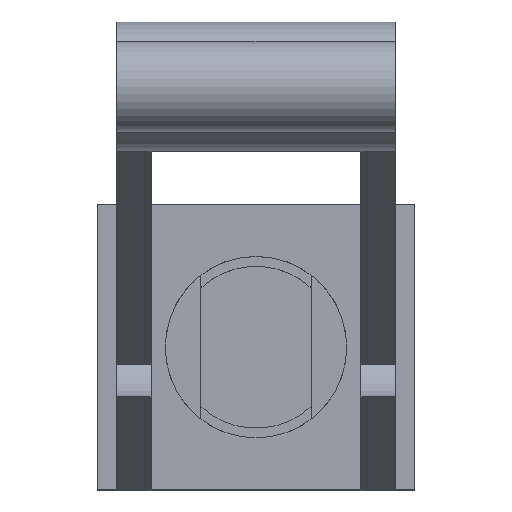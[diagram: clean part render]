
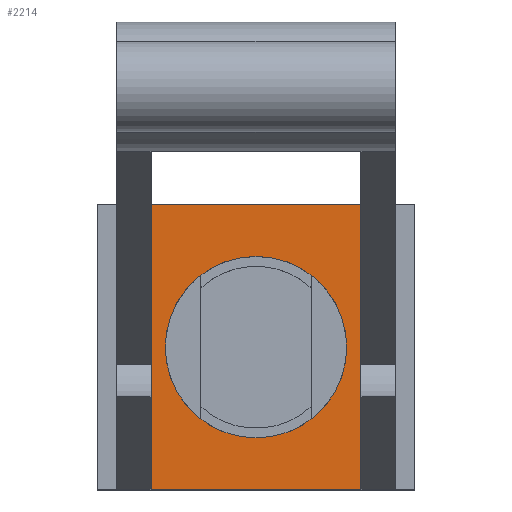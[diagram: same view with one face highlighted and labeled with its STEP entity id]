
A CAD part, top view. The second image highlights one B-rep face of the part: STEP entity #2214.
In plain terms, the highlighted planar face has unit normal (0, 0, 1).
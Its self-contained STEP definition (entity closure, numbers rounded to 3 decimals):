
#44 = PLANE('',#45);
#45 = AXIS2_PLACEMENT_3D('',#46,#47,#48);
#46 = CARTESIAN_POINT('',(-24.5,-62.,-119.04));
#47 = DIRECTION('',(0.,1.,0.));
#48 = DIRECTION('',(0.,0.,1.));
#100 = PLANE('',#101);
#101 = AXIS2_PLACEMENT_3D('',#102,#103,#104);
#102 = CARTESIAN_POINT('',(-24.5,-18.,-119.04));
#103 = DIRECTION('',(0.,1.,0.));
#104 = DIRECTION('',(0.,0.,1.));
#332 = VERTEX_POINT('',#333);
#333 = CARTESIAN_POINT('',(-16.2,-62.,-98.04));
#347 = PLANE('',#348);
#348 = AXIS2_PLACEMENT_3D('',#349,#350,#351);
#349 = CARTESIAN_POINT('',(-16.2,-23.337,-54.723));
#350 = DIRECTION('',(1.,0.,0.));
#351 = DIRECTION('',(-0.,0.,1.));
#359 = EDGE_CURVE('',#332,#360,#362,.T.);
#360 = VERTEX_POINT('',#361);
#361 = CARTESIAN_POINT('',(16.2,-62.,-98.04));
#362 = SURFACE_CURVE('',#363,(#367,#374),.PCURVE_S1.);
#363 = LINE('',#364,#365);
#364 = CARTESIAN_POINT('',(-24.5,-62.,-98.04));
#365 = VECTOR('',#366,1.);
#366 = DIRECTION('',(1.,0.,0.));
#367 = PCURVE('',#44,#368);
#368 = DEFINITIONAL_REPRESENTATION('',(#369),#373);
#369 = LINE('',#370,#371);
#370 = CARTESIAN_POINT('',(21.,0.));
#371 = VECTOR('',#372,1.);
#372 = DIRECTION('',(0.,1.));
#373 = ( GEOMETRIC_REPRESENTATION_CONTEXT(2) 
PARAMETRIC_REPRESENTATION_CONTEXT() REPRESENTATION_CONTEXT('2D SPACE',''
  ) );
#374 = PCURVE('',#375,#380);
#375 = PLANE('',#376);
#376 = AXIS2_PLACEMENT_3D('',#377,#378,#379);
#377 = CARTESIAN_POINT('',(-24.5,-62.,-98.04));
#378 = DIRECTION('',(0.,0.,1.));
#379 = DIRECTION('',(1.,0.,0.));
#380 = DEFINITIONAL_REPRESENTATION('',(#381),#385);
#381 = LINE('',#382,#383);
#382 = CARTESIAN_POINT('',(0.,0.));
#383 = VECTOR('',#384,1.);
#384 = DIRECTION('',(1.,0.));
#385 = ( GEOMETRIC_REPRESENTATION_CONTEXT(2) 
PARAMETRIC_REPRESENTATION_CONTEXT() REPRESENTATION_CONTEXT('2D SPACE',''
  ) );
#403 = PLANE('',#404);
#404 = AXIS2_PLACEMENT_3D('',#405,#406,#407);
#405 = CARTESIAN_POINT('',(16.2,-23.337,-54.723));
#406 = DIRECTION('',(1.,0.,0.));
#407 = DIRECTION('',(-0.,0.,1.));
#899 = VERTEX_POINT('',#900);
#900 = CARTESIAN_POINT('',(-16.2,-18.,-98.04));
#921 = EDGE_CURVE('',#899,#922,#924,.T.);
#922 = VERTEX_POINT('',#923);
#923 = CARTESIAN_POINT('',(16.2,-18.,-98.04));
#924 = SURFACE_CURVE('',#925,(#929,#936),.PCURVE_S1.);
#925 = LINE('',#926,#927);
#926 = CARTESIAN_POINT('',(-24.5,-18.,-98.04));
#927 = VECTOR('',#928,1.);
#928 = DIRECTION('',(1.,0.,0.));
#929 = PCURVE('',#100,#930);
#930 = DEFINITIONAL_REPRESENTATION('',(#931),#935);
#931 = LINE('',#932,#933);
#932 = CARTESIAN_POINT('',(21.,0.));
#933 = VECTOR('',#934,1.);
#934 = DIRECTION('',(0.,1.));
#935 = ( GEOMETRIC_REPRESENTATION_CONTEXT(2) 
PARAMETRIC_REPRESENTATION_CONTEXT() REPRESENTATION_CONTEXT('2D SPACE',''
  ) );
#936 = PCURVE('',#375,#937);
#937 = DEFINITIONAL_REPRESENTATION('',(#938),#942);
#938 = LINE('',#939,#940);
#939 = CARTESIAN_POINT('',(0.,44.));
#940 = VECTOR('',#941,1.);
#941 = DIRECTION('',(1.,0.));
#942 = ( GEOMETRIC_REPRESENTATION_CONTEXT(2) 
PARAMETRIC_REPRESENTATION_CONTEXT() REPRESENTATION_CONTEXT('2D SPACE',''
  ) );
#1919 = EDGE_CURVE('',#332,#899,#1920,.T.);
#1920 = SURFACE_CURVE('',#1921,(#1925,#1932),.PCURVE_S1.);
#1921 = LINE('',#1922,#1923);
#1922 = CARTESIAN_POINT('',(-16.2,-42.669,-98.04));
#1923 = VECTOR('',#1924,1.);
#1924 = DIRECTION('',(0.,1.,0.));
#1925 = PCURVE('',#347,#1926);
#1926 = DEFINITIONAL_REPRESENTATION('',(#1927),#1931);
#1927 = LINE('',#1928,#1929);
#1928 = CARTESIAN_POINT('',(-43.317,19.331));
#1929 = VECTOR('',#1930,1.);
#1930 = DIRECTION('',(0.,-1.));
#1931 = ( GEOMETRIC_REPRESENTATION_CONTEXT(2) 
PARAMETRIC_REPRESENTATION_CONTEXT() REPRESENTATION_CONTEXT('2D SPACE',''
  ) );
#1932 = PCURVE('',#375,#1933);
#1933 = DEFINITIONAL_REPRESENTATION('',(#1934),#1938);
#1934 = LINE('',#1935,#1936);
#1935 = CARTESIAN_POINT('',(8.3,19.331));
#1936 = VECTOR('',#1937,1.);
#1937 = DIRECTION('',(0.,1.));
#1938 = ( GEOMETRIC_REPRESENTATION_CONTEXT(2) 
PARAMETRIC_REPRESENTATION_CONTEXT() REPRESENTATION_CONTEXT('2D SPACE',''
  ) );
#2214 = ADVANCED_FACE('',(#2215,#2241),#375,.T.);
#2215 = FACE_BOUND('',#2216,.T.);
#2216 = EDGE_LOOP('',(#2217,#2218,#2219,#2220));
#2217 = ORIENTED_EDGE('',*,*,#921,.F.);
#2218 = ORIENTED_EDGE('',*,*,#1919,.F.);
#2219 = ORIENTED_EDGE('',*,*,#359,.T.);
#2220 = ORIENTED_EDGE('',*,*,#2221,.T.);
#2221 = EDGE_CURVE('',#360,#922,#2222,.T.);
#2222 = SURFACE_CURVE('',#2223,(#2227,#2234),.PCURVE_S1.);
#2223 = LINE('',#2224,#2225);
#2224 = CARTESIAN_POINT('',(16.2,-42.669,-98.04));
#2225 = VECTOR('',#2226,1.);
#2226 = DIRECTION('',(0.,1.,0.));
#2227 = PCURVE('',#375,#2228);
#2228 = DEFINITIONAL_REPRESENTATION('',(#2229),#2233);
#2229 = LINE('',#2230,#2231);
#2230 = CARTESIAN_POINT('',(40.7,19.331));
#2231 = VECTOR('',#2232,1.);
#2232 = DIRECTION('',(0.,1.));
#2233 = ( GEOMETRIC_REPRESENTATION_CONTEXT(2) 
PARAMETRIC_REPRESENTATION_CONTEXT() REPRESENTATION_CONTEXT('2D SPACE',''
  ) );
#2234 = PCURVE('',#403,#2235);
#2235 = DEFINITIONAL_REPRESENTATION('',(#2236),#2240);
#2236 = LINE('',#2237,#2238);
#2237 = CARTESIAN_POINT('',(-43.317,19.331));
#2238 = VECTOR('',#2239,1.);
#2239 = DIRECTION('',(0.,-1.));
#2240 = ( GEOMETRIC_REPRESENTATION_CONTEXT(2) 
PARAMETRIC_REPRESENTATION_CONTEXT() REPRESENTATION_CONTEXT('2D SPACE',''
  ) );
#2241 = FACE_BOUND('',#2242,.T.);
#2242 = EDGE_LOOP('',(#2243));
#2243 = ORIENTED_EDGE('',*,*,#2244,.T.);
#2244 = EDGE_CURVE('',#2245,#2245,#2247,.T.);
#2245 = VERTEX_POINT('',#2246);
#2246 = CARTESIAN_POINT('',(0.,-26.,-98.04));
#2247 = SURFACE_CURVE('',#2248,(#2253,#2264),.PCURVE_S1.);
#2248 = CIRCLE('',#2249,14.);
#2249 = AXIS2_PLACEMENT_3D('',#2250,#2251,#2252);
#2250 = CARTESIAN_POINT('',(0.,-40.,-98.04));
#2251 = DIRECTION('',(-0.,0.,-1.));
#2252 = DIRECTION('',(0.,1.,0.));
#2253 = PCURVE('',#375,#2254);
#2254 = DEFINITIONAL_REPRESENTATION('',(#2255),#2263);
#2255 = ( BOUNDED_CURVE() B_SPLINE_CURVE(2,(#2256,#2257,#2258,#2259,
#2260,#2261,#2262),.UNSPECIFIED.,.T.,.F.) B_SPLINE_CURVE_WITH_KNOTS((1,2
    ,2,2,2,1),(-2.094,0.,2.094,4.189,
6.283,8.378),.UNSPECIFIED.) CURVE() 
GEOMETRIC_REPRESENTATION_ITEM() RATIONAL_B_SPLINE_CURVE((1.,0.5,1.,0.5,
1.,0.5,1.)) REPRESENTATION_ITEM('') );
#2256 = CARTESIAN_POINT('',(24.5,36.));
#2257 = CARTESIAN_POINT('',(48.749,36.));
#2258 = CARTESIAN_POINT('',(36.624,15.));
#2259 = CARTESIAN_POINT('',(24.5,-6.));
#2260 = CARTESIAN_POINT('',(12.376,15.));
#2261 = CARTESIAN_POINT('',(0.251,36.));
#2262 = CARTESIAN_POINT('',(24.5,36.));
#2263 = ( GEOMETRIC_REPRESENTATION_CONTEXT(2) 
PARAMETRIC_REPRESENTATION_CONTEXT() REPRESENTATION_CONTEXT('2D SPACE',''
  ) );
#2264 = PCURVE('',#2265,#2270);
#2265 = CYLINDRICAL_SURFACE('',#2266,14.);
#2266 = AXIS2_PLACEMENT_3D('',#2267,#2268,#2269);
#2267 = CARTESIAN_POINT('',(0.,-40.,-102.64));
#2268 = DIRECTION('',(-0.,0.,-1.));
#2269 = DIRECTION('',(0.,1.,0.));
#2270 = DEFINITIONAL_REPRESENTATION('',(#2271),#2275);
#2271 = LINE('',#2272,#2273);
#2272 = CARTESIAN_POINT('',(-6.283,-4.6));
#2273 = VECTOR('',#2274,1.);
#2274 = DIRECTION('',(1.,-0.));
#2275 = ( GEOMETRIC_REPRESENTATION_CONTEXT(2) 
PARAMETRIC_REPRESENTATION_CONTEXT() REPRESENTATION_CONTEXT('2D SPACE',''
  ) );
